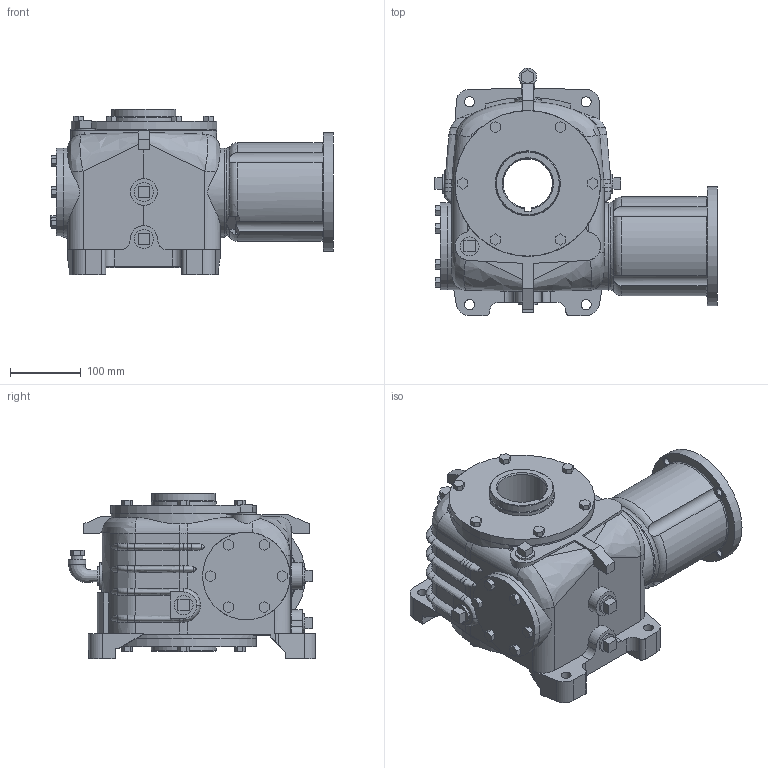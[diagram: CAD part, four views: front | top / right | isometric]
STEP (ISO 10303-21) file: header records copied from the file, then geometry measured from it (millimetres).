
FILE_DESCRIPTION(/* description */ ('Unknown'),/* implementation_level */ '2;1');
FILE_NAME(/* name */ 'HV-35-7AQBNG010',/* time_stamp */ '2024-11-21T09:53:09-05:00',/* author */ ('Unknown'),/* organization */ ('Unknown'),/* preprocessor_version */ 'ST-DEVELOPER v19.4',/* originating_system */ 'Solid Edge',/* authorisation */ 'Unknown');
FILE_SCHEMA (('AUTOMOTIVE_DESIGN {1 0 10303 214 3 1 1}'));
Length unit declared in the file: millimetre
Products named in the file (6): HV-35-7AQBNG010; 35-5-CP; 35-OUTHS-2750; 35-OUTH-2750; 35-MTR45-56C; 35-WCAP
Assembly tree (5 placements, depth 2):
  HV-35-7AQBNG010
    35-5-CP
    35-OUTHS-2750
    35-OUTH-2750
    35-MTR45-56C
    35-WCAP
Bounding box: 400.09 x 350.73 x 234.89 mm (x, y, z)
Volume: 11046222.6 mm3; surface area: 870793.3 mm2
Topology: 5 solids, 5 shells, 600 faces, 1544 edges, 1021 vertices
Faces by surface type: plane 370, cylinder 110, bspline 87, torus 17, cone 16
Full cylindrical faces by diameter (mm): 0.254 x7, 7.62 x1, 10.319 x4, 12.7 x7, 14.287 x10, 15.081 x4, 25.189 x1, 30.15 x1, 38.1 x2, 63.5 x1, 65.024 x1, 90.424 x2, 90.932 x1, 92.075 x3, 92.583 x1, 101.6 x1, 102.108 x1, 114.338 x1, 123.825 x3, 123.952 x1, 168.148 x1, 206.248 x2, 206.375 x2
Entity records: 23005 total; most frequent: CARTESIAN_POINT 7431, ORIENTED_EDGE 2890, DIRECTION 2504, EDGE_CURVE 1445, VERTEX_POINT 997, LINE 850, VECTOR 850, AXIS2_PLACEMENT_3D 827
